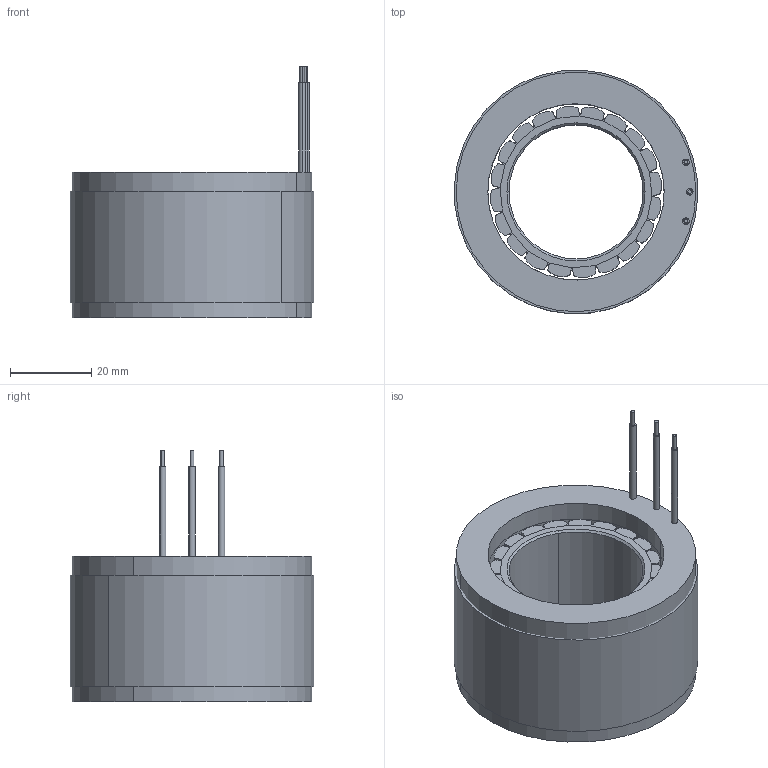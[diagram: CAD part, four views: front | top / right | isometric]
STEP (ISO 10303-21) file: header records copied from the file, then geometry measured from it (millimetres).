
FILE_DESCRIPTION (( 'STEP AP214' ), '1' );
FILE_NAME ('6035µç»ú - ÐÂ.STEP', '2025-02-18T03:20:44', ( '' ), ( '' ), 'SwSTEP 2.0', 'SolidWorks 2023', '' );
FILE_SCHEMA (( 'AUTOMOTIVE_DESIGN' ));
Length unit declared in the file: millimetre
Products named in the file (1): 6035电机 - 新
Bounding box: 59.91 x 59.91 x 61.8 mm (x, y, z)
Surface area: 32359.4 mm2 (no closed solid volume)
Topology: 0 solids, 27 shells, 154 faces, 879 edges, 740 vertices
Faces by surface type: plane 94, cylinder 56, cone 4
Entity records: 8625 total; most frequent: CARTESIAN_POINT 1774, DIRECTION 1509, ORIENTED_EDGE 1130, EDGE_CURVE 879, VERTEX_POINT 740, LINE 559, VECTOR 559, AXIS2_PLACEMENT_3D 475
